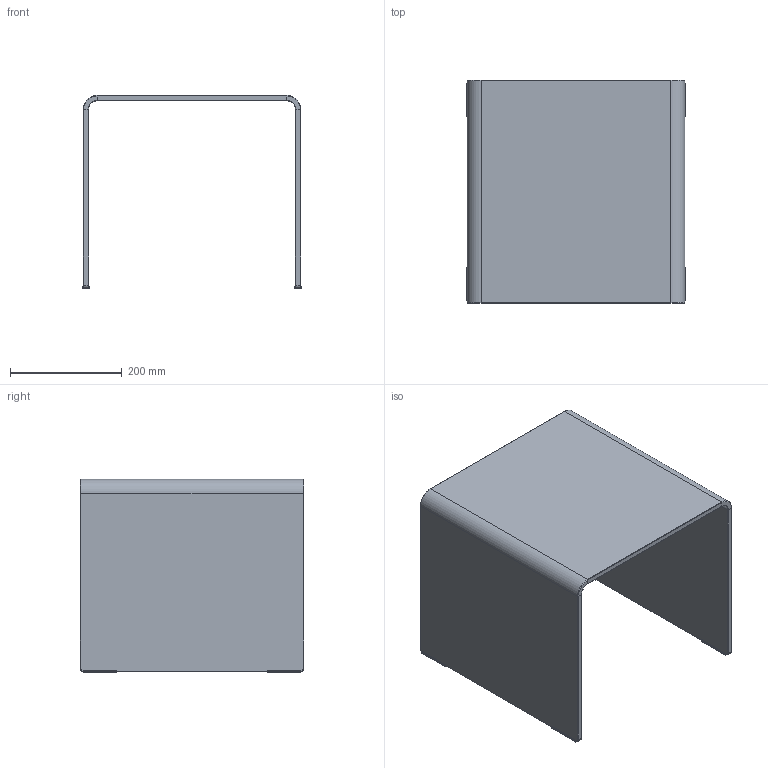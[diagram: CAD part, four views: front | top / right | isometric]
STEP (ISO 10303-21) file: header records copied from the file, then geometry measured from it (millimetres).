
FILE_DESCRIPTION((''),'2;1');
FILE_NAME('C:\AutodeskVault\AreaLavoro\Progetti\SoVeT Italia\2. Tavolini_Coffee tables\Trix\Web file\Trix Web\P4132.stp','2012-06-14T17:06:14',('Gianluca'),('So.Ve.T. s.r.l.'),'Autodesk Inventor 2013','Autodesk Inventor 2013','IL PROGETTO E'' DI ESCLUSIVA PROPRIETA'' DELLA SO.VE.T. srl. E'' VIETATA OGNI RIPRODUZIONE TOTALE O PARZIALE E QUALSIASI UTILIZZO NON AUTORIZZATO. ');
FILE_SCHEMA(('AUTOMOTIVE_DESIGN { 1 0 10303 214 1 1 1 1 }'));
Length unit declared in the file: millimetre
Products named in the file (1): P4132 Contorno semplificato
Bounding box: 392.6 x 400 x 346.2 mm (x, y, z)
Volume: 4173374.2 mm3; surface area: 864179.2 mm2
Topology: 1 solids, 1 shells, 134 faces, 344 edges, 204 vertices
Faces by surface type: plane 78, cylinder 40, cone 16
Entity records: 4173 total; most frequent: DIRECTION 710, ORIENTED_EDGE 688, CARTESIAN_POINT 683, EDGE_CURVE 344, VECTOR 248, LINE 248, AXIS2_PLACEMENT_3D 231, VERTEX_POINT 204
